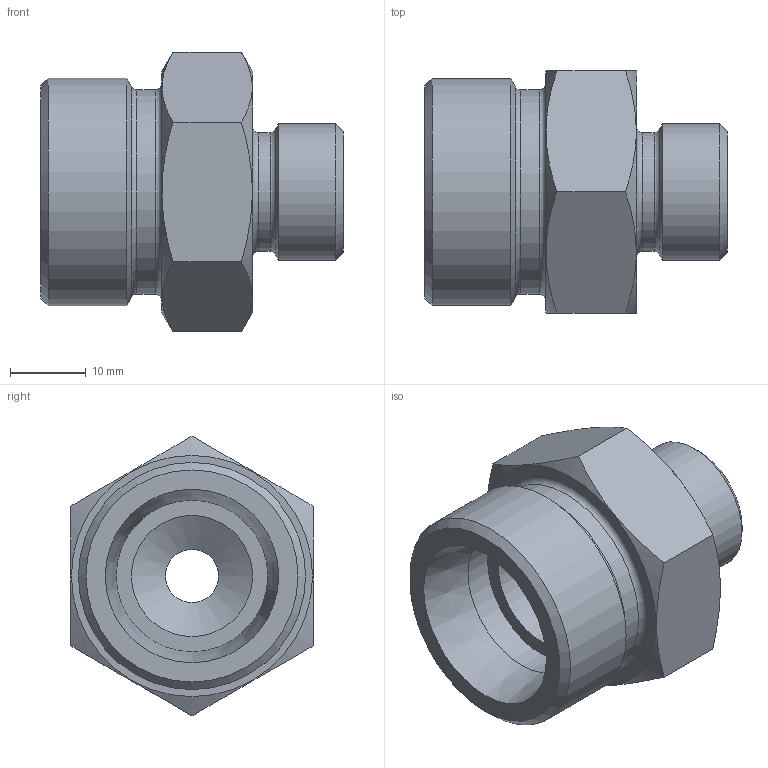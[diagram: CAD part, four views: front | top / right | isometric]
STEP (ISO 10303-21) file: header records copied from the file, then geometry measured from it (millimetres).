
FILE_DESCRIPTION( ( 'Unknown' ), '1' );
FILE_NAME( 'C:/Users/p.nanko/Desktop/3D SR/XGR2010S.stp', 'Unknown', ( 'Peter Nanko' ), ( 'Armaturen Arndt' ), 'PSStep 14.0', 'Solid Edge ST4', ' ' );
FILE_SCHEMA( ( 'AUTOMOTIVE_DESIGN { 1 0 10303 214 1 1 1 1 }' ) );
Length unit declared in the file: millimetre
Products named in the file (1): 1
Bounding box: 40 x 32 x 36.95 mm (x, y, z)
Volume: 17220.9 mm3; surface area: 6763.7 mm2
Topology: 1 solids, 1 shells, 33 faces, 70 edges, 43 vertices
Faces by surface type: plane 12, cone 9, cylinder 8, torus 4
Full cylindrical faces by diameter (mm): 7 x1, 10 x1, 15.7 x1, 16 x1, 18 x1, 20 x1, 27 x1, 30 x1
Entity records: 1132 total; most frequent: CARTESIAN_POINT 256, DIRECTION 126, ORIENTED_EDGE 88, AXIS2_PLACEMENT_3D 60, EDGE_LOOP 60, FACE_OUTER_BOUND 45, EDGE_CURVE 44, VERTEX_POINT 38
